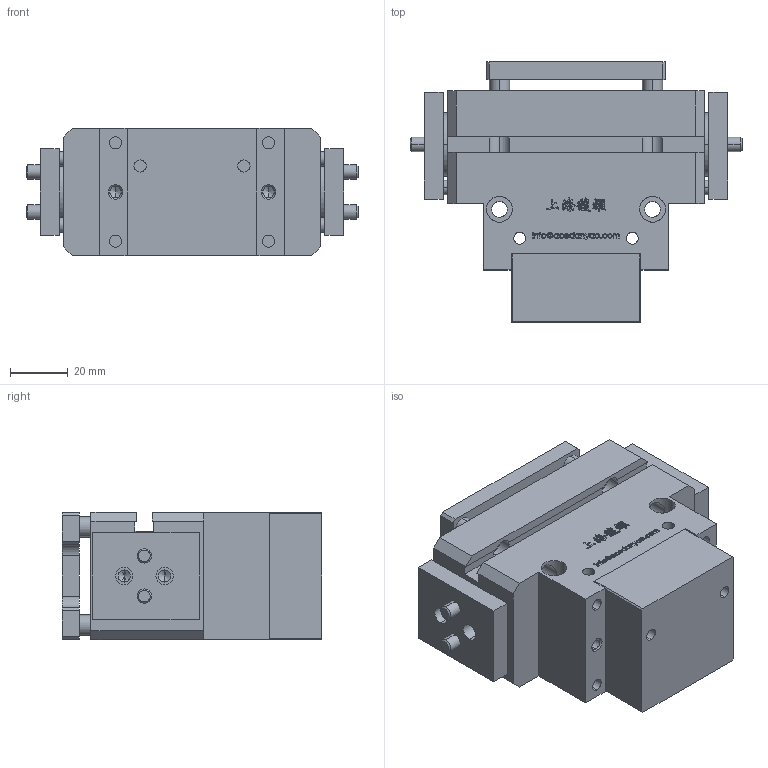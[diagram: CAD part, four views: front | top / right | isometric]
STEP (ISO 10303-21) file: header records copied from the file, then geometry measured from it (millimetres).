
FILE_DESCRIPTION (( 'STEP AP203' ), '1' );
FILE_NAME ('SRO-80-P-原始檔-組合-W106.04.20.STEP', '2017-04-20T08:21:17', ( 'DanyaoCAD' ), ( '' ), 'SwSTEP 2.0', 'SolidWorks 2016', '' );
FILE_SCHEMA (( 'CONFIG_CONTROL_DESIGN' ));
Length unit declared in the file: millimetre
Products named in the file (5): Corpo; Fondello; Piattello; Griffa; SRO-80-P-原始檔-組合-W106.04.20
Assembly tree (5 placements, depth 2):
  SRO-80-P-原始檔-組合-W106.04.20
    Corpo
    Fondello
    Piattello
    Griffa  x2
Bounding box: 115 x 90 x 44 mm (x, y, z)
Volume: 259103.1 mm3; surface area: 67458.7 mm2
Topology: 5 solids, 5 shells, 1038 faces, 2866 edges, 1892 vertices
Faces by surface type: bspline 640, plane 260, cylinder 106, cone 32
Entity records: 49217 total; most frequent: CARTESIAN_POINT 27333, ORIENTED_EDGE 5544, EDGE_CURVE 2772, DIRECTION 2382, VERTEX_POINT 1842, B_SPLINE_CURVE_WITH_KNOTS 1312, VECTOR 1272, LINE 1272
